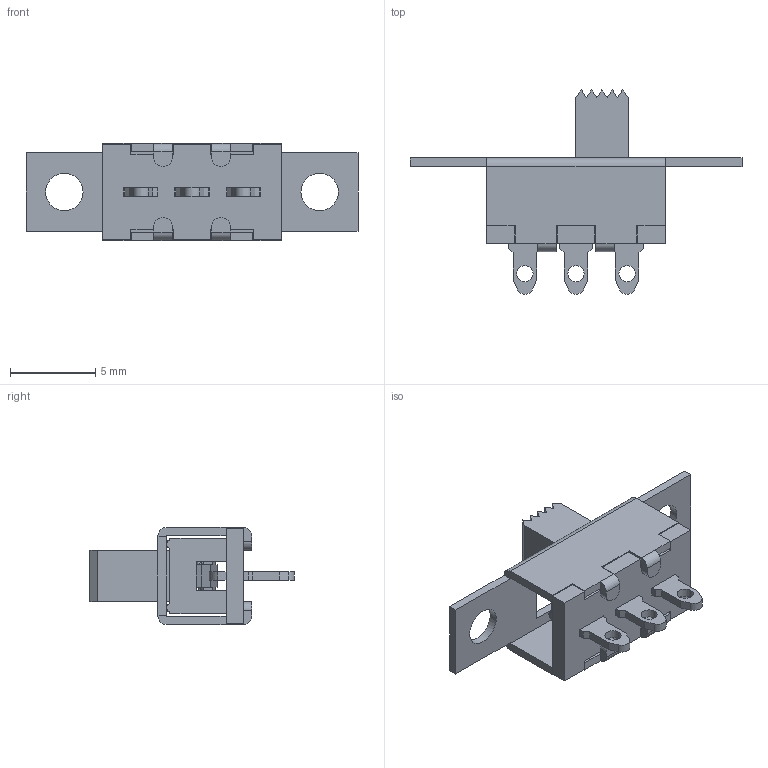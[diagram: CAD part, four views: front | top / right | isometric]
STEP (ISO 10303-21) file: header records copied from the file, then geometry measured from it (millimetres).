
FILE_DESCRIPTION((''),'2;1');
FILE_NAME('SSD-12F15-G4-NS_ASM','2019-10-09T',('Administrator'),(''),'PRO/ENGINEER BY PARAMETRIC TECHNOLOGY CORPORATION, 2010100','PRO/ENGINEER BY PARAMETRIC TECHNOLOGY CORPORATION, 2010100','');
FILE_SCHEMA(('CONFIG_CONTROL_DESIGN','SHAPE_APPEARANCE_LAYERS_GROUPS'));
Length unit declared in the file: millimetre
Products named in the file (8): 10-41201; 11-412FG-4; 15-41202; 12-41201-; 12-41202; 13-41201; 14-32-180-350T6; SSD-12F15-G4-NS_ASM
Assembly tree (8 placements, depth 2):
  SSD-12F15-G4-NS_ASM
    10-41201
    11-412FG-4
    15-41202
    12-41201-  x2
    12-41202
    13-41201
    14-32-180-350T6
Bounding box: 19.5 x 12 x 5.7 mm (x, y, z)
Volume: 260.1 mm3; surface area: 889.9 mm2
Topology: 8 solids, 8 shells, 235 faces, 635 edges, 418 vertices
Faces by surface type: plane 197, cylinder 28, bspline 10
Entity records: 11358 total; most frequent: CARTESIAN_POINT 4459, ORIENTED_EDGE 1174, DIRECTION 1061, EDGE_CURVE 587, VECTOR 515, LINE 515, PRESENTATION_STYLE_ASSIGNMENT 406, STYLED_ITEM 406
